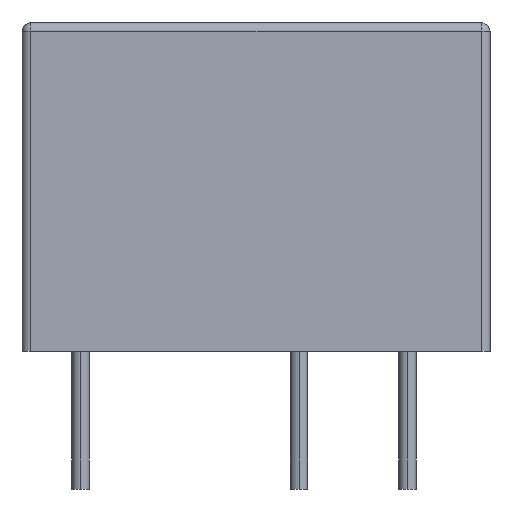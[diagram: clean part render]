
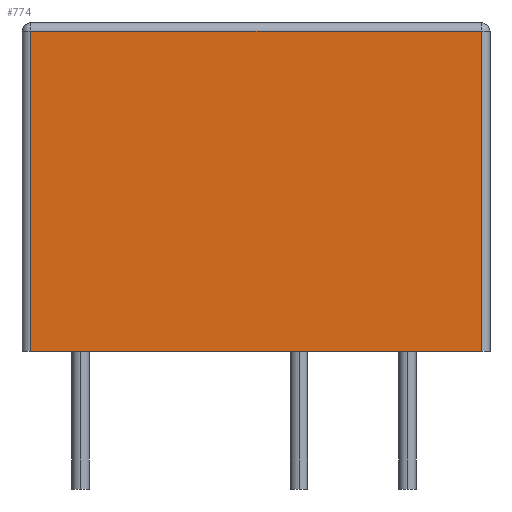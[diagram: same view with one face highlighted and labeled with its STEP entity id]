
A CAD part, left-side view. The second image highlights one B-rep face of the part: STEP entity #774.
In plain terms, the highlighted planar face has unit normal (-1, 0, 0).
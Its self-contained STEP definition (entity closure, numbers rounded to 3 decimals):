
#6=DIRECTION('',(0.,-1.,0.));
#7=VECTOR('',#6,26.2);
#8=CARTESIAN_POINT('',(-20.6,13.1,0.));
#9=LINE('',#8,#7);
#215=DIRECTION('',(0.,0.,1.));
#216=VECTOR('',#215,18.6);
#217=CARTESIAN_POINT('',(-20.6,-13.1,0.));
#218=LINE('',#217,#216);
#229=DIRECTION('',(0.,-1.,0.));
#230=VECTOR('',#229,26.2);
#231=CARTESIAN_POINT('',(-20.6,13.1,18.6));
#232=LINE('',#231,#230);
#233=DIRECTION('',(0.,0.,1.));
#234=VECTOR('',#233,18.6);
#235=CARTESIAN_POINT('',(-20.6,13.1,0.));
#236=LINE('',#235,#234);
#378=CARTESIAN_POINT('',(-20.6,13.1,0.));
#380=VERTEX_POINT('',#378);
#381=CARTESIAN_POINT('',(-20.6,-13.1,0.));
#382=VERTEX_POINT('',#381);
#393=CARTESIAN_POINT('',(-20.6,-13.1,18.6));
#395=VERTEX_POINT('',#393);
#415=CARTESIAN_POINT('',(-20.6,13.1,18.6));
#416=VERTEX_POINT('',#415);
#763=CARTESIAN_POINT('',(-20.6,13.1,0.));
#764=DIRECTION('',(-1.,0.,0.));
#765=DIRECTION('',(0.,-1.,0.));
#766=AXIS2_PLACEMENT_3D('',#763,#764,#765);
#767=PLANE('',#766);
#768=ORIENTED_EDGE('',*,*,#757,.T.);
#769=ORIENTED_EDGE('',*,*,#733,.F.);
#770=ORIENTED_EDGE('',*,*,#488,.F.);
#771=ORIENTED_EDGE('',*,*,#536,.T.);
#772=EDGE_LOOP('',(#768,#769,#770,#771));
#773=FACE_OUTER_BOUND('',#772,.F.);
#488=EDGE_CURVE('',#380,#382,#9,.T.);
#536=EDGE_CURVE('',#380,#416,#236,.T.);
#733=EDGE_CURVE('',#382,#395,#218,.T.);
#757=EDGE_CURVE('',#416,#395,#232,.T.);
#774=ADVANCED_FACE('',(#773),#767,.T.);
